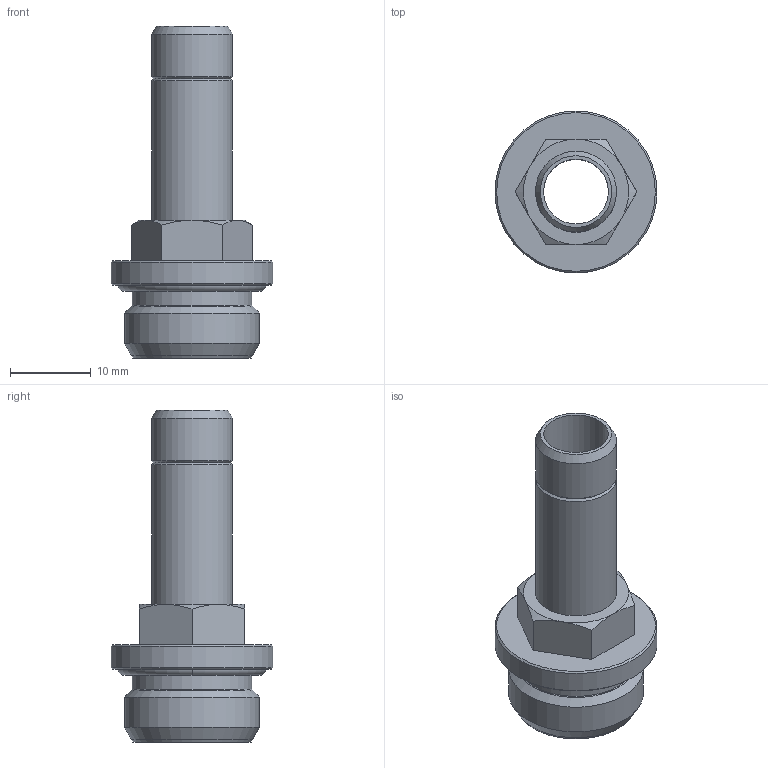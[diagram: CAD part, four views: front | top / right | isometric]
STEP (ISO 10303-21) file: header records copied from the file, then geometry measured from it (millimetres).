
FILE_DESCRIPTION(('Bauteilbeschreibung','HiCAD-Model','HiCAD-STEP-TRANSLATION','Bauteilbeschreibung'),'2;1');
FILE_NAME('B:/ABGLEICH/ZEICHNUNGEN/STEP FÜR INTERNET/STEP/IPSO 06/200613_IPSO_06_10_3-8.STP','2012-03-01T16:33:45+00:00',('Konstrukteur'),('Konstrukteur Firma GmbH'),' HiCAD neXt 2008, Step 3.1.1401.2J ','HiCAD neXt 2008','confidential');
FILE_SCHEMA(('AUTOMOTIVE_DESIGN { 1 2 10303 214 0 1 1 1 }'));
Length unit declared in the file: millimetre
Products named in the file (5): A00613_IPSO_06_10_3_8; A00613; A006130; G 3_8; OR 14X1_78
Assembly tree (4 placements, depth 3):
  A00613_IPSO_06_10_3_8
    A00613
    A006130
      G 3_8
    OR 14X1_78
Bounding box: 20 x 20 x 41 mm (x, y, z)
Volume: 2822.2 mm3; surface area: 4164.9 mm2
Topology: 3 solids, 3 shells, 45 faces, 93 edges, 54 vertices
Faces by surface type: cone 18, plane 12, cylinder 9, torus 6
Full cylindrical faces by diameter (mm): 8 x1, 10 x2, 11 x1, 14.75 x1, 14.95 x2, 16.662 x1, 20 x1
Entity records: 1444 total; most frequent: DIRECTION 202, CARTESIAN_POINT 193, ORIENTED_EDGE 132, AXIS2_PLACEMENT_3D 95, EDGE_LOOP 74, EDGE_CURVE 66, COLOUR_RGB 61, PRESENTATION_STYLE_ASSIGNMENT 61
